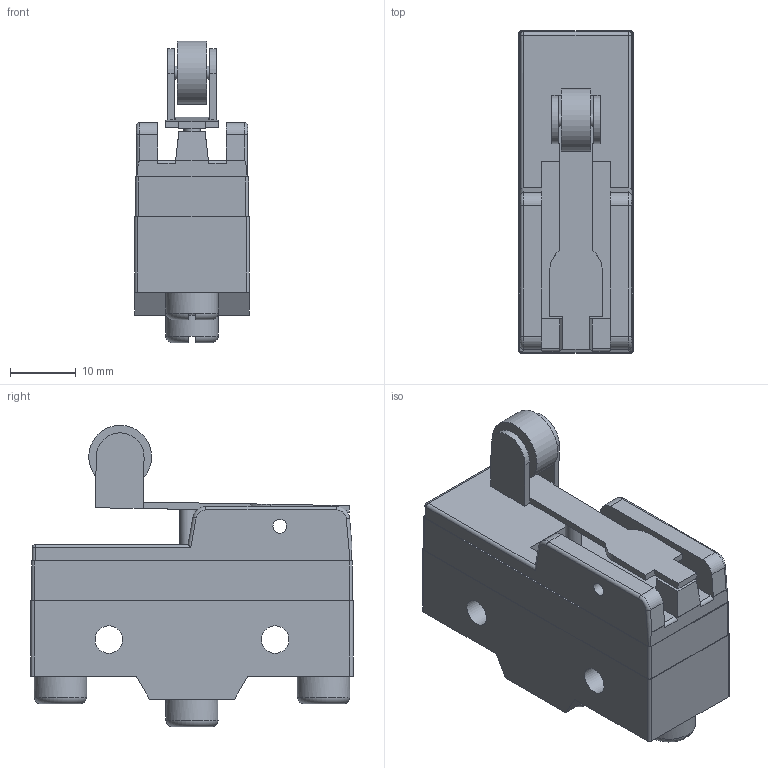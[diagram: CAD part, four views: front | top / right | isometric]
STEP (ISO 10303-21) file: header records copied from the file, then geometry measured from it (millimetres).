
FILE_DESCRIPTION(/* description */ (''),/* implementation_level */ '2;1');
FILE_NAME(/* name */ 'E:\Inventor 2016\제품 외형도\(\X2\C644B8CC\X0\) 리미트 스위치\직류용 마이크로 스위치 (Z형)\YSR1010GW-B.stp',/* time_stamp */ '2019-04-09T10:04:52+09:00',/* author */ ('Kim'),/* organization */ (''),/* preprocessor_version */ 'ST-DEVELOPER v16.1',/* originating_system */ 'Autodesk Inventor 2016',/* authorisation */ '');
FILE_SCHEMA (('AUTOMOTIVE_DESIGN { 1 0 10303 214 3 1 1 }'));
Length unit declared in the file: millimetre
Products named in the file (1): YSR1010GW-B
Bounding box: 17.5 x 49.2 x 46.01 mm (x, y, z)
Volume: 19472.2 mm3; surface area: 7306.5 mm2
Topology: 1 solids, 1 shells, 151 faces, 395 edges, 255 vertices
Faces by surface type: plane 96, cylinder 43, torus 10, sphere 2
Full cylindrical faces by diameter (mm): 2 x2, 2.1 x2, 2.5 x1, 4.2 x2, 8 x3, 9.6 x1
Entity records: 4715 total; most frequent: CARTESIAN_POINT 887, DIRECTION 775, ORIENTED_EDGE 756, EDGE_CURVE 378, LINE 261, VECTOR 261, AXIS2_PLACEMENT_3D 257, VERTEX_POINT 249
